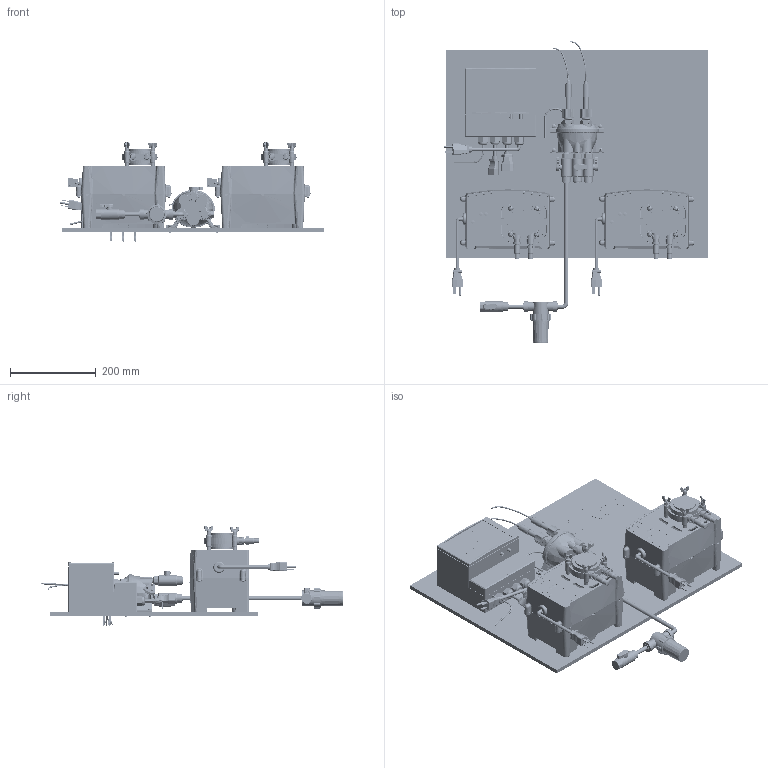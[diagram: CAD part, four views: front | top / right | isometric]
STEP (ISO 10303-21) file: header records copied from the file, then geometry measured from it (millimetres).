
FILE_DESCRIPTION (( 'STEP AP214' ), '1' );
FILE_NAME ('Board Style F 1-14-2020.STEP', '2020-01-14T22:54:12', ( '' ), ( '' ), 'SwSTEP 2.0', 'SolidWorks 2019', '' );
FILE_SCHEMA (( 'AUTOMOTIVE_DESIGN' ));
Length unit declared in the file: inch
Products named in the file (1): Board Style F 1-14-2020
Bounding box: 615.15 x 702.09 x 233.39 mm (x, y, z)
Volume: 7606662.2 mm3; surface area: 1660165.1 mm2
Topology: 32 solids, 35 shells, 10692 faces, 27311 edges, 17072 vertices
Faces by surface type: plane 4123, cylinder 2559, bspline 2300, torus 839, cone 727, sphere 144
Entity records: 573535 total; most frequent: CARTESIAN_POINT 264581, ORIENTED_EDGE 54294, DIRECTION 44229, EDGE_CURVE 27147, VERTEX_POINT 17072, AXIS2_PLACEMENT_3D 15735, VECTOR 12759, LINE 12759
